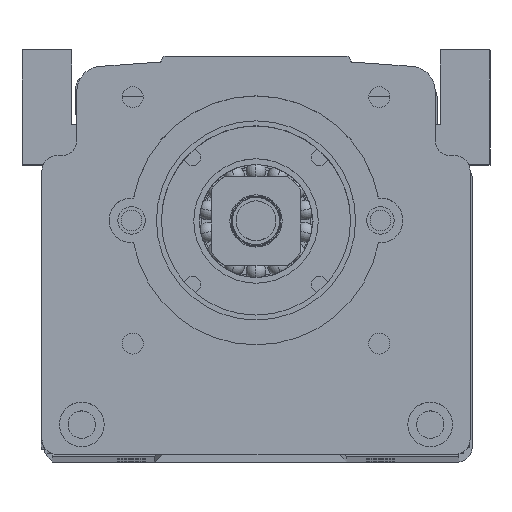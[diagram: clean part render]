
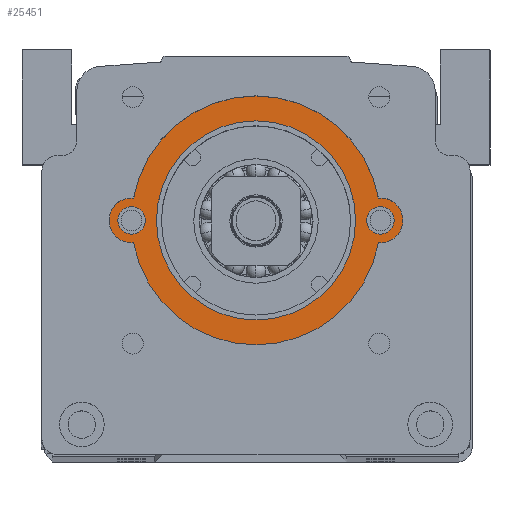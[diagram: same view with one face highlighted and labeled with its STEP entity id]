
A CAD part, top view. The second image highlights one B-rep face of the part: STEP entity #25451.
In plain terms, the highlighted planar face has unit normal (0, 0, 1).
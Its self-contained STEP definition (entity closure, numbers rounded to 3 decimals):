
#559 = CARTESIAN_POINT ( 'NONE',  ( 14.107, 5.327, 7. ) ) ;
#1543 = DIRECTION ( 'NONE',  ( 1., 0., 0. ) ) ;
#1860 = CIRCLE ( 'NONE', #34139, 2.75 ) ;
#1912 = CARTESIAN_POINT ( 'NONE',  ( -33.143, 5.327, 7. ) ) ;
#2118 = EDGE_CURVE ( 'NONE', #41993, #25621, #18164, .T. ) ;
#3054 = DIRECTION ( 'NONE',  ( 1., 0., 0. ) ) ;
#3095 = CARTESIAN_POINT ( 'NONE',  ( -8.143, 5.327, 7. ) ) ;
#3565 = ORIENTED_EDGE ( 'NONE', *, *, #32671, .F. ) ;
#4071 = CARTESIAN_POINT ( 'NONE',  ( -8.143, 5.327, 7. ) ) ;
#5563 = DIRECTION ( 'NONE',  ( 0., 0., 1. ) ) ;
#6897 = AXIS2_PLACEMENT_3D ( 'NONE', #66732, #34092, #1543 ) ;
#7384 = DIRECTION ( 'NONE',  ( 1., 0., 0. ) ) ;
#7435 = DIRECTION ( 'NONE',  ( 0., 0., 1. ) ) ;
#7749 = CIRCLE ( 'NONE', #16978, 20. ) ;
#8530 = DIRECTION ( 'NONE',  ( 1., 0., 0. ) ) ;
#8678 = CARTESIAN_POINT ( 'NONE',  ( -32.738, 9.808, 7. ) ) ;
#9508 = DIRECTION ( 'NONE',  ( 1., 0., 0. ) ) ;
#10007 = CARTESIAN_POINT ( 'NONE',  ( 11.857, 5.327, 7. ) ) ;
#11303 = FACE_BOUND ( 'NONE', #54525, .T. ) ;
#11374 = ORIENTED_EDGE ( 'NONE', *, *, #67961, .F. ) ;
#11528 = CARTESIAN_POINT ( 'NONE',  ( 16.452, 9.808, 7. ) ) ;
#11982 = EDGE_LOOP ( 'NONE', ( #3565, #22796 ) ) ;
#12539 = ORIENTED_EDGE ( 'NONE', *, *, #58113, .T. ) ;
#15512 = PLANE ( 'NONE',  #60308 ) ;
#15946 = EDGE_CURVE ( 'NONE', #35965, #61165, #42716, .T. ) ;
#16978 = AXIS2_PLACEMENT_3D ( 'NONE', #68222, #35599, #3054 ) ;
#17433 = CARTESIAN_POINT ( 'NONE',  ( 16.452, 0.845, 7. ) ) ;
#18164 = CIRCLE ( 'NONE', #29054, 2.75 ) ;
#19106 = ORIENTED_EDGE ( 'NONE', *, *, #2118, .F. ) ;
#19667 = CARTESIAN_POINT ( 'NONE',  ( -33.143, 5.327, 7. ) ) ;
#21273 = CARTESIAN_POINT ( 'NONE',  ( -8.143, 5.327, 7. ) ) ;
#22796 = ORIENTED_EDGE ( 'NONE', *, *, #45525, .F. ) ;
#23261 = ORIENTED_EDGE ( 'NONE', *, *, #15946, .F. ) ;
#23336 = CIRCLE ( 'NONE', #49031, 2.75 ) ;
#24400 = CARTESIAN_POINT ( 'NONE',  ( 19.607, 5.327, 7. ) ) ;
#24772 = AXIS2_PLACEMENT_3D ( 'NONE', #40008, #7435, #45519 ) ;
#24906 = EDGE_CURVE ( 'NONE', #31091, #38443, #57383, .T. ) ;
#25134 = DIRECTION ( 'NONE',  ( 1., 0., 0. ) ) ;
#25451 = ADVANCED_FACE ( 'NONE', ( #25707, #53044, #11303, #38544 ), #15512, .T. ) ;
#25621 = VERTEX_POINT ( 'NONE', #559 ) ;
#25707 = FACE_BOUND ( 'NONE', #11982, .T. ) ;
#25943 = EDGE_LOOP ( 'NONE', ( #12539, #44794, #62970, #65626, #66568 ) ) ;
#26733 = DIRECTION ( 'NONE',  ( 1., 0., 0. ) ) ;
#28803 = ORIENTED_EDGE ( 'NONE', *, *, #37236, .F. ) ;
#29054 = AXIS2_PLACEMENT_3D ( 'NONE', #63083, #30409, #68522 ) ;
#29082 = VERTEX_POINT ( 'NONE', #17433 ) ;
#29207 = EDGE_CURVE ( 'NONE', #29082, #31091, #65518, .T. ) ;
#30393 = CARTESIAN_POINT ( 'NONE',  ( 16.857, 5.327, 7. ) ) ;
#30409 = DIRECTION ( 'NONE',  ( 0., 0., 1. ) ) ;
#31091 = VERTEX_POINT ( 'NONE', #46744 ) ;
#31468 = CARTESIAN_POINT ( 'NONE',  ( -35.893, 5.327, 7. ) ) ;
#31813 = CARTESIAN_POINT ( 'NONE',  ( -32.738, 0.845, 7. ) ) ;
#32132 = DIRECTION ( 'NONE',  ( 0., 0., 1. ) ) ;
#32671 = EDGE_CURVE ( 'NONE', #38213, #34603, #43839, .T. ) ;
#34092 = DIRECTION ( 'NONE',  ( 0., 0., 1. ) ) ;
#34139 = AXIS2_PLACEMENT_3D ( 'NONE', #30393, #68508, #35884 ) ;
#34603 = VERTEX_POINT ( 'NONE', #36549 ) ;
#35038 = VERTEX_POINT ( 'NONE', #8678 ) ;
#35599 = DIRECTION ( 'NONE',  ( 0., 0., 1. ) ) ;
#35884 = DIRECTION ( 'NONE',  ( 1., 0., 0. ) ) ;
#35965 = VERTEX_POINT ( 'NONE', #10007 ) ;
#36549 = CARTESIAN_POINT ( 'NONE',  ( -30.393, 5.327, 7. ) ) ;
#37236 = EDGE_CURVE ( 'NONE', #25621, #41993, #1860, .T. ) ;
#38131 = CARTESIAN_POINT ( 'NONE',  ( -33.143, 5.327, 7. ) ) ;
#38213 = VERTEX_POINT ( 'NONE', #31468 ) ;
#38443 = VERTEX_POINT ( 'NONE', #11528 ) ;
#38544 = FACE_BOUND ( 'NONE', #45308, .T. ) ;
#39762 = CIRCLE ( 'NONE', #58990, 4.5 ) ;
#39962 = DIRECTION ( 'NONE',  ( 0., 0., 1. ) ) ;
#40008 = CARTESIAN_POINT ( 'NONE',  ( 16.857, 5.327, 7. ) ) ;
#41140 = DIRECTION ( 'NONE',  ( 0., 0., 1. ) ) ;
#41993 = VERTEX_POINT ( 'NONE', #24400 ) ;
#42108 = DIRECTION ( 'NONE',  ( 0., 0., 1. ) ) ;
#42716 = CIRCLE ( 'NONE', #56253, 20. ) ;
#43600 = DIRECTION ( 'NONE',  ( 1., 0., 0. ) ) ;
#43839 = CIRCLE ( 'NONE', #57787, 2.75 ) ;
#44794 = ORIENTED_EDGE ( 'NONE', *, *, #55145, .T. ) ;
#45308 = EDGE_LOOP ( 'NONE', ( #11374, #23261 ) ) ;
#45519 = DIRECTION ( 'NONE',  ( 1., 0., 0. ) ) ;
#45525 = EDGE_CURVE ( 'NONE', #34603, #38213, #23336, .T. ) ;
#46744 = CARTESIAN_POINT ( 'NONE',  ( 21.357, 5.327, 7. ) ) ;
#49031 = AXIS2_PLACEMENT_3D ( 'NONE', #38131, #5563, #43600 ) ;
#50243 = CIRCLE ( 'NONE', #55254, 25. ) ;
#51428 = CIRCLE ( 'NONE', #67275, 25. ) ;
#51921 = CARTESIAN_POINT ( 'NONE',  ( -28.143, 5.327, 7. ) ) ;
#53044 = FACE_OUTER_BOUND ( 'NONE', #25943, .T. ) ;
#54525 = EDGE_LOOP ( 'NONE', ( #28803, #19106 ) ) ;
#55145 = EDGE_CURVE ( 'NONE', #58907, #29082, #50243, .T. ) ;
#55254 = AXIS2_PLACEMENT_3D ( 'NONE', #4071, #42108, #9508 ) ;
#56253 = AXIS2_PLACEMENT_3D ( 'NONE', #21273, #59428, #26733 ) ;
#57383 = CIRCLE ( 'NONE', #6897, 4.5 ) ;
#57787 = AXIS2_PLACEMENT_3D ( 'NONE', #19667, #57813, #25134 ) ;
#57813 = DIRECTION ( 'NONE',  ( 0., 0., 1. ) ) ;
#58113 = EDGE_CURVE ( 'NONE', #35038, #58907, #39762, .T. ) ;
#58907 = VERTEX_POINT ( 'NONE', #31813 ) ;
#58990 = AXIS2_PLACEMENT_3D ( 'NONE', #1912, #39962, #7384 ) ;
#59428 = DIRECTION ( 'NONE',  ( 0., 0., 1. ) ) ;
#60308 = AXIS2_PLACEMENT_3D ( 'NONE', #64776, #32132, #70252 ) ;
#61165 = VERTEX_POINT ( 'NONE', #51921 ) ;
#62231 = EDGE_CURVE ( 'NONE', #38443, #35038, #51428, .T. ) ;
#62970 = ORIENTED_EDGE ( 'NONE', *, *, #29207, .T. ) ;
#63083 = CARTESIAN_POINT ( 'NONE',  ( 16.857, 5.327, 7. ) ) ;
#64776 = CARTESIAN_POINT ( 'NONE',  ( -33.143, 5.327, 7. ) ) ;
#65518 = CIRCLE ( 'NONE', #24772, 4.5 ) ;
#65626 = ORIENTED_EDGE ( 'NONE', *, *, #24906, .T. ) ;
#66568 = ORIENTED_EDGE ( 'NONE', *, *, #62231, .T. ) ;
#66732 = CARTESIAN_POINT ( 'NONE',  ( 16.857, 5.327, 7. ) ) ;
#67275 = AXIS2_PLACEMENT_3D ( 'NONE', #3095, #41140, #8530 ) ;
#67961 = EDGE_CURVE ( 'NONE', #61165, #35965, #7749, .T. ) ;
#68222 = CARTESIAN_POINT ( 'NONE',  ( -8.143, 5.327, 7. ) ) ;
#68508 = DIRECTION ( 'NONE',  ( 0., 0., 1. ) ) ;
#68522 = DIRECTION ( 'NONE',  ( 1., 0., 0. ) ) ;
#70252 = DIRECTION ( 'NONE',  ( 1., 0., 0. ) ) ;
